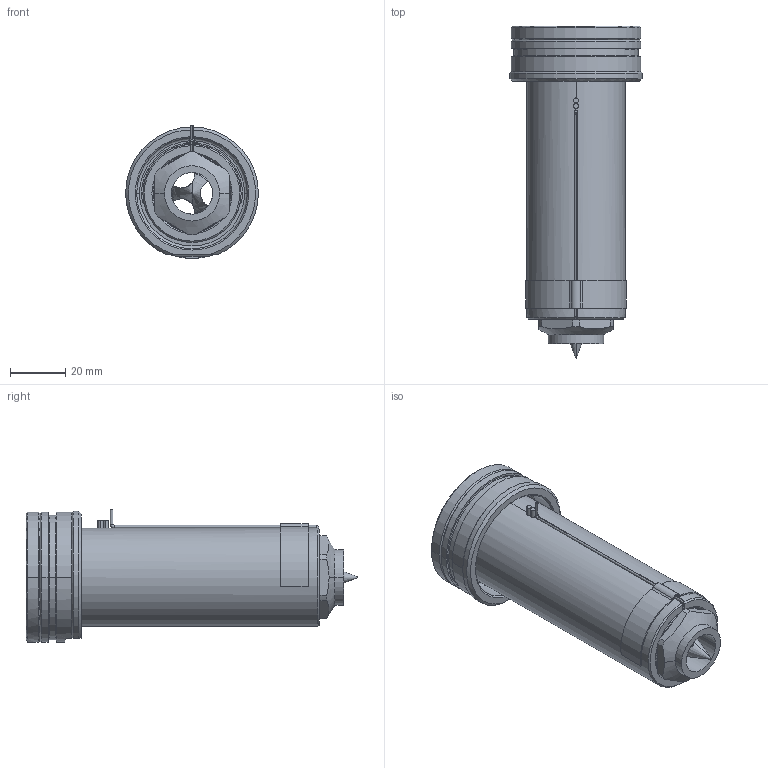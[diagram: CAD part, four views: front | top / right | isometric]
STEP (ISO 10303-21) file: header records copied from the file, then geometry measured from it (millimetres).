
FILE_DESCRIPTION((''),'2;1');
FILE_NAME('EO16_PG-BL_WR_100_SW','2024-02-19T11:18:46',('sundharh'),(''),'CREO PARAMETRIC BY PTC INC, 2023154','CREO PARAMETRIC BY PTC INC, 2023154','');
FILE_SCHEMA(('CONFIG_CONTROL_DESIGN'));
Length unit declared in the file: millimetre
Products named in the file (1): EO16_PG-BL_WR_100_SW
Bounding box: 47.97 x 120 x 48 mm (x, y, z)
Volume: 100860.5 mm3; surface area: 28391.9 mm2
Topology: 1 solids, 1 shells, 200 faces, 526 edges, 325 vertices
Faces by surface type: cylinder 79, plane 59, cone 39, torus 14, bspline 7, sphere 2
Entity records: 7297 total; most frequent: CARTESIAN_POINT 2256, DIRECTION 1113, ORIENTED_EDGE 1040, EDGE_CURVE 520, AXIS2_PLACEMENT_3D 464, VERTEX_POINT 325, CIRCLE 271, EDGE_LOOP 217
